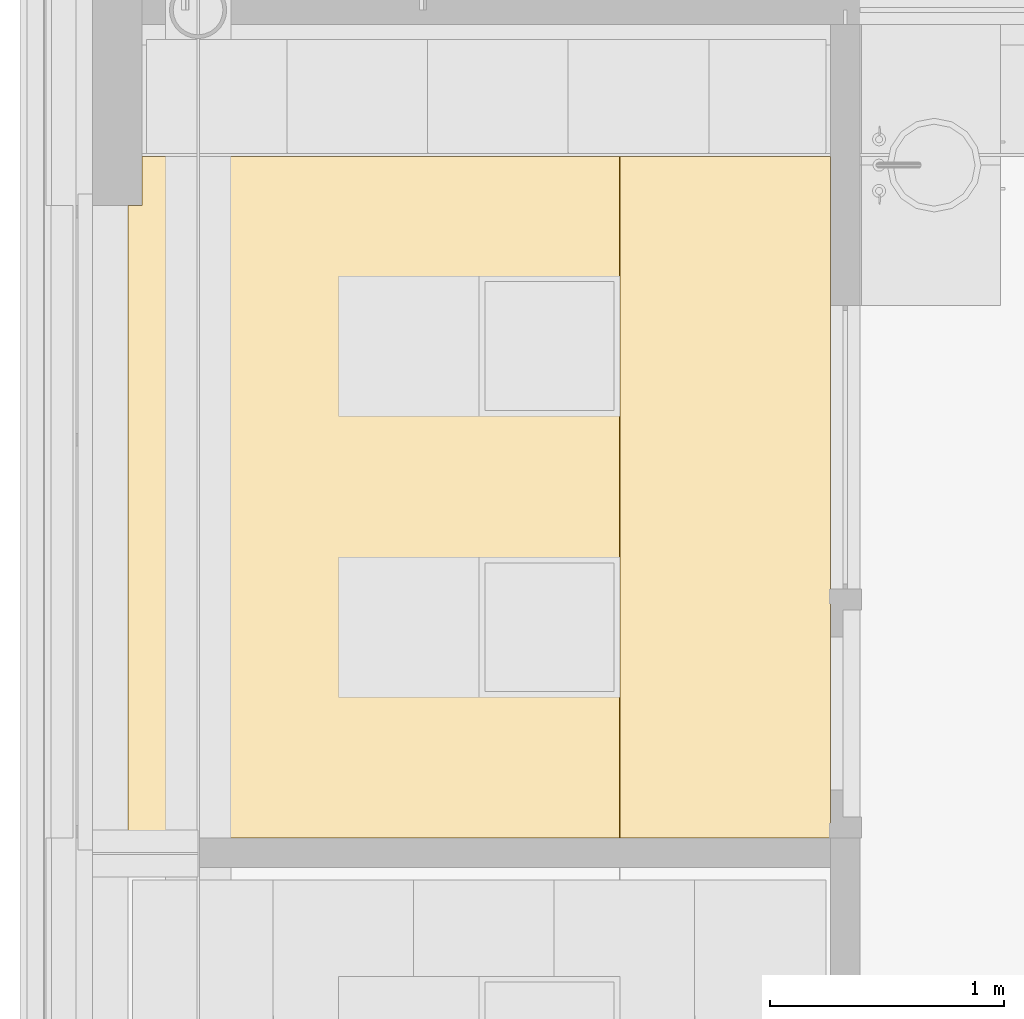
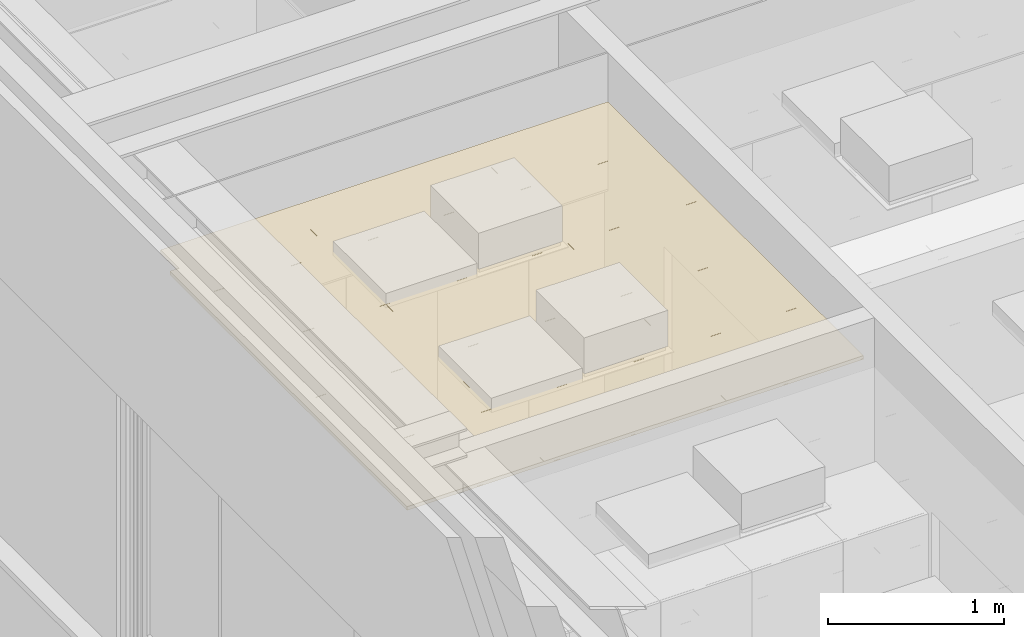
# One storey, part 157 of 347: 1 covering.
"""IFC2X3 building model written with IfcOpenShell, lengths in millimetres."""

from ifc_helpers import new_model, entity, si_unit, converted_unit, derived_unit, money_unit, direction, frame, origin_with_axes, place, context, subcontext, project, spatial, faceted_brep, type_object, element, save


model = new_model("IFC2X3")

# Units and contexts
model_context = context("Model", 3, precision=0.01, world=origin_with_axes(), true_north=direction((0.0, 1.0)))
plan_context = context("Plan", 3, precision=0.01, world=origin_with_axes(), true_north=direction((0.0, 1.0)))
body_context = subcontext(model_context, "Body", "Model", "MODEL_VIEW")
ifc_project = project(units=[si_unit("LENGTHUNIT", "METRE", prefix="MILLI"), si_unit("AREAUNIT", "SQUARE_METRE"), si_unit("VOLUMEUNIT", "CUBIC_METRE"), converted_unit("PLANEANGLEUNIT", "DEGREE", entity("IfcPlaneAngleMeasure", 0.0174532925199), si_unit("PLANEANGLEUNIT", "RADIAN"), dimensions=[0, 0, 0, 0, 0, 0, 0]), money_unit("EUR"), converted_unit("TIMEUNIT", "Year", entity("IfcTimeMeasure", 31556926.0), si_unit("TIMEUNIT", "SECOND"), dimensions=[0, 0, 1, 0, 0, 0, 0]), si_unit("MASSUNIT", "GRAM", prefix="KILO"), si_unit("THERMODYNAMICTEMPERATUREUNIT", "DEGREE_CELSIUS"), si_unit("LUMINOUSINTENSITYUNIT", "LUMEN"), si_unit("ENERGYUNIT", "JOULE", prefix="MEGA"), derived_unit("THERMALCONDUCTANCEUNIT", [(si_unit("POWERUNIT", "WATT"), 1), (si_unit("LENGTHUNIT", "METRE"), -1), (si_unit("THERMODYNAMICTEMPERATUREUNIT", "KELVIN"), -1)]), derived_unit("SPECIFICHEATCAPACITYUNIT", [(si_unit("ENERGYUNIT", "JOULE"), 1), (si_unit("MASSUNIT", "GRAM", prefix="KILO"), -1), (si_unit("THERMODYNAMICTEMPERATUREUNIT", "KELVIN"), -1)]), derived_unit("MASSDENSITYUNIT", [(si_unit("MASSUNIT", "GRAM", prefix="KILO"), 1), (si_unit("VOLUMEUNIT", "CUBIC_METRE"), -1)])], contexts=[model_context, plan_context])

# Site, building, storey
site_placement = place(None, origin_with_axes())
site = spatial("IfcSite", under=ifc_project, at=site_placement, Name="Site", CompositionType="ELEMENT")
building_placement = place(site_placement, origin_with_axes())
building = spatial("IfcBuilding", under=site, at=building_placement, Name="Naam gebouw", CompositionType="ELEMENT")
storey_placement = place(building_placement, origin_with_axes())
storey = spatial("IfcBuildingStorey", under=building, at=storey_placement, Name="begane grond", CompositionType="ELEMENT", Elevation=0.0)

# Covering
covering_type = type_object("IfcCoveringType", Name="Ceiling Editor INT_v2.01", PredefinedType="CEILING")
covering_placement = place(storey_placement, frame((5000.0, 8590.0, 3200.0), z_axis=(0.0, 0.0, 1.0), x_axis=(1.0, 0.0, 0.0)))
element("IfcCovering", 1, at=covering_placement, inside=storey, type_object=covering_type, Name="45 Plafondafwerkingen_77 garderobe", PredefinedType="CEILING", context=body_context, shape_type="Brep", body=[
    faceted_brep([(0.0, 599.9, 0.0), (0.0, 599.9, 20.0), (899.9, 599.9, 20.0), (899.9, 599.9, 0.0), (0.0, 0.1, 0.0), (0.0, 0.1, 20.0), (899.9, 0.1, 20.0), (899.9, 0.1, 0.0)], [[[0, 1, 2, 3]], [[1, 0, 4, 5]], [[1, 5, 6, 2]], [[6, 7, 3, 2]], [[4, 0, 3, 7]], [[5, 4, 7, 6]]]),
    faceted_brep([(-2.79896736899e-05, 1199.9, 0.0), (-2.79896736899e-05, 1199.9, 20.0), (899.9, 1199.9, 20.0), (899.9, 1199.9, 0.0), (0.0, 727.499993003, 0.0), (0.0, 727.499993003, 20.0), (0.0, 600.1, 20.0), (899.9, 600.1, 20.0), (899.9, 600.1, 0.0), (0.0, 600.1, 0.0)], [[[0, 1, 2, 3]], [[1, 0, 4, 5]], [[5, 6, 7, 2, 1]], [[7, 8, 3, 2]], [[4, 0, 3, 8, 9]], [[6, 5, 4, 9]], [[6, 9, 8, 7]]]),
    faceted_brep([(-2.79896736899e-05, 1799.9, 0.0), (-2.79896736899e-05, 1799.9, 20.0), (899.9, 1799.9, 20.0), (899.9, 1799.9, 0.0), (-2.79896736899e-05, 1200.1, 0.0), (-2.79896736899e-05, 1200.1, 20.0), (899.9, 1200.1, 20.0), (899.9, 1200.1, 0.0)], [[[0, 1, 2, 3]], [[1, 0, 4, 5]], [[1, 5, 6, 2]], [[6, 7, 3, 2]], [[4, 0, 3, 7]], [[5, 4, 7, 6]]]),
    faceted_brep([(-2.79896736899e-05, 2399.9, 0.0), (-2.79896736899e-05, 2399.9, 20.0), (899.9, 2399.9, 20.0), (899.9, 2399.9, 0.0), (-2.79896736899e-05, 1800.1, 0.0), (-2.79896736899e-05, 1800.1, 20.0), (899.9, 1800.1, 20.0), (899.9, 1800.1, 0.0)], [[[0, 1, 2, 3]], [[1, 0, 4, 5]], [[1, 5, 6, 2]], [[6, 7, 3, 2]], [[4, 0, 3, 7]], [[5, 4, 7, 6]]]),
    faceted_brep([(899.9, 2909.99997201, 0.0), (899.9, 2909.99997201, 20.0), (899.9, 2400.1, 20.0), (899.9, 2400.1, 0.0), (750.0, 2909.99997201, 0.0), (750.0, 2909.99997201, 20.0), (-2.79896736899e-05, 2699.99728633, 20.0), (-2.79896736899e-05, 2400.1, 20.0), (59.9999999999, 2909.99997201, 20.0), (59.9999999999, 2699.99728633, 20.0), (-2.79896736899e-05, 2400.1, 0.0), (-2.79896736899e-05, 2699.99728633, 0.0), (59.9999999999, 2699.99728633, 0.0), (59.9999999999, 2909.99997201, 0.0)], [[[0, 1, 2, 3]], [[1, 0, 4, 5]], [[6, 7, 2, 1, 5, 8, 9]], [[7, 10, 3, 2]], [[4, 0, 3, 10, 11, 12, 13]], [[8, 5, 4, 13]], [[7, 6, 11, 10]], [[9, 8, 13, 12]], [[6, 9, 12, 11]]]),
    faceted_brep([(2099.9, 0.1, 20.0), (2099.9, 0.1, 0.0), (2099.9, 599.9, 0.0), (2099.9, 599.9, 20.0), (900.1, 0.1, 20.0), (900.1, 0.1, 0.0), (900.1, 599.9, 0.0), (900.1, 599.9, 20.0)], [[[0, 1, 2, 3]], [[4, 5, 1, 0]], [[2, 1, 5, 6]], [[3, 2, 6, 7]], [[4, 0, 3, 7]], [[7, 6, 5, 4]]]),
    faceted_brep([(2099.9, 600.1, 20.0), (2099.9, 600.1, 0.0), (2099.9, 1199.9, 0.0), (2099.9, 1199.9, 20.0), (900.1, 600.1, 20.0), (900.1, 600.1, 0.0), (900.1, 1199.9, 0.0), (900.1, 1199.9, 20.0)], [[[0, 1, 2, 3]], [[4, 5, 1, 0]], [[2, 1, 5, 6]], [[3, 2, 6, 7]], [[4, 0, 3, 7]], [[7, 6, 5, 4]]]),
    faceted_brep([(2099.9, 1200.1, 20.0), (2099.9, 1200.1, 0.0), (2099.9, 1799.9, 0.0), (2099.9, 1799.9, 20.0), (900.1, 1200.1, 20.0), (900.1, 1200.1, 0.0), (900.1, 1799.9, 0.0), (900.1, 1799.9, 20.0)], [[[0, 1, 2, 3]], [[4, 5, 1, 0]], [[2, 1, 5, 6]], [[3, 2, 6, 7]], [[4, 0, 3, 7]], [[7, 6, 5, 4]]]),
    faceted_brep([(2099.9, 1800.1, 20.0), (2099.9, 1800.1, 0.0), (2099.9, 2399.9, 0.0), (2099.9, 2399.9, 20.0), (900.1, 1800.1, 20.0), (900.1, 1800.1, 0.0), (900.1, 2399.9, 0.0), (900.1, 2399.9, 20.0)], [[[0, 1, 2, 3]], [[4, 5, 1, 0]], [[2, 1, 5, 6]], [[3, 2, 6, 7]], [[4, 0, 3, 7]], [[7, 6, 5, 4]]]),
    faceted_brep([(2099.9, 2909.99997201, 0.0), (2099.9, 2909.99997201, 20.0), (2099.9, 2400.1, 20.0), (2099.9, 2400.1, 0.0), (1500.0, 2909.99997201, 0.0), (1500.0, 2909.99997201, 20.0), (900.1, 2909.99997201, 20.0), (900.1, 2400.1, 20.0), (900.1, 2400.1, 0.0), (900.1, 2909.99997201, 0.0)], [[[0, 1, 2, 3]], [[1, 0, 4, 5]], [[5, 6, 7, 2, 1]], [[7, 8, 3, 2]], [[4, 0, 3, 8, 9]], [[6, 5, 4, 9]], [[6, 9, 8, 7]]]),
    faceted_brep([(3000.0, 0.1, 20.0), (3000.0, 599.9, 20.0), (2100.1, 599.9, 20.0), (2100.1, 0.1, 20.0), (3000.0, 0.1, 0.0), (3000.0, 599.9, 0.0), (2100.1, 599.9, 0.0), (2100.1, 0.1, 0.0)], [[[0, 1, 2, 3]], [[1, 0, 4, 5]], [[1, 5, 6, 2]], [[2, 6, 7, 3]], [[4, 0, 3, 7]], [[5, 4, 7, 6]]]),
    faceted_brep([(3000.0, 727.499993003, 20.0), (3000.0, 1199.9, 20.0), (2100.1, 1199.9, 20.0), (2100.1, 600.1, 20.0), (3000.0, 600.1, 20.0), (3000.0, 727.499993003, 0.0), (3000.0, 1199.9, 0.0), (2100.1, 1199.9, 0.0), (2100.1, 600.1, 0.0), (3000.0, 600.1, 0.0)], [[[0, 1, 2, 3, 4]], [[1, 0, 5, 6]], [[1, 6, 7, 2]], [[2, 7, 8, 3]], [[9, 4, 3, 8]], [[0, 4, 9, 5]], [[5, 9, 8, 7, 6]]]),
    faceted_brep([(3000.0, 1454.99998601, 20.0), (3000.0, 1799.9, 20.0), (2100.1, 1799.9, 20.0), (2100.1, 1200.1, 20.0), (3000.0, 1200.1, 20.0), (3000.0, 1454.99998601, 0.0), (3000.0, 1799.9, 0.0), (2100.1, 1799.9, 0.0), (2100.1, 1200.1, 0.0), (3000.0, 1200.1, 0.0)], [[[0, 1, 2, 3, 4]], [[1, 0, 5, 6]], [[1, 6, 7, 2]], [[2, 7, 8, 3]], [[9, 4, 3, 8]], [[0, 4, 9, 5]], [[5, 9, 8, 7, 6]]]),
    faceted_brep([(3000.0, 2182.49997901, 20.0), (3000.0, 2399.9, 20.0), (2100.1, 2399.9, 20.0), (2100.1, 1800.1, 20.0), (3000.0, 1800.1, 20.0), (3000.0, 2182.49997901, 0.0), (3000.0, 2399.9, 0.0), (2100.1, 2399.9, 0.0), (2100.1, 1800.1, 0.0), (3000.0, 1800.1, 0.0)], [[[0, 1, 2, 3, 4]], [[1, 0, 5, 6]], [[1, 6, 7, 2]], [[2, 7, 8, 3]], [[9, 4, 3, 8]], [[0, 4, 9, 5]], [[5, 9, 8, 7, 6]]]),
    faceted_brep([(3000.0, 2400.1, 20.0), (3000.0, 2909.99997201, 20.0), (2250.0, 2909.99997201, 20.0), (2100.1, 2909.99997201, 20.0), (2100.1, 2400.1, 20.0), (3000.0, 2400.1, 0.0), (3000.0, 2909.99997201, 0.0), (2250.0, 2909.99997201, 0.0), (2100.1, 2909.99997201, 0.0), (2100.1, 2400.1, 0.0)], [[[0, 1, 2, 3, 4]], [[1, 0, 5, 6]], [[2, 1, 6, 7]], [[3, 2, 7, 8]], [[3, 8, 9, 4]], [[5, 0, 4, 9]], [[6, 5, 9, 8, 7]]]),
    faceted_brep([(887.5, 25.0, -5.0), (887.5, 25.0, 0.0), (887.5, 587.5, 0.0), (887.5, 587.5, -5.0), (25.0, 25.0, -5.0), (25.0, 25.0, 0.0), (3000.0, 1187.5, 0.0), (3000.0, 1212.5, 0.0), (3000.0, 1787.5, 0.0), (3000.0, 1812.5, 0.0), (3000.0, 2387.5, 0.0), (3000.0, 2412.5, 0.0), (3000.0, 2909.99997201, 0.0), (2112.5, 2909.99997201, 0.0), (2087.5, 2909.99997201, 0.0), (912.5, 2909.99997201, 0.0), (887.5, 2909.99997201, 0.0), (59.9999999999, 2909.99997201, 0.0), (59.9999999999, 2699.99728633, 0.0), (-2.79896736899e-05, 2699.99728633, 0.0), (-2.39100963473e-05, 2412.5, 0.0), (-2.35553472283e-05, 2387.5, 0.0), (-1.53961154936e-05, 1812.5, 0.0), (-1.50413663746e-05, 1787.5, 0.0), (-6.88213463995e-06, 1212.5, 0.0), (-6.52738552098e-06, 1187.5, 0.0), (0.0, 612.5, 0.0), (0.0, 587.5, 0.0), (0.0, 12.5, 0.0), (0.0, 0.0, 0.0), (750.0, 0.0, 0.0), (1500.0, 0.0, 0.0), (2250.0, 0.0, 0.0), (3000.0, 0.0, 0.0), (3000.0, 12.5, 0.0), (3000.0, 587.5, 0.0), (3000.0, 612.5, 0.0), (912.5, 25.0, 0.0), (912.5, 587.5, 0.0), (2087.5, 587.5, 0.0), (2087.5, 25.0, 0.0), (912.5, 1187.5, 0.0), (2087.5, 1187.5, 0.0), (2087.5, 612.5, 0.0), (912.5, 612.5, 0.0), (912.5, 1787.5, 0.0), (2087.5, 1787.5, 0.0), (2087.5, 1212.5, 0.0), (912.5, 1212.5, 0.0), (912.5, 2387.5, 0.0), (2087.5, 2387.5, 0.0), (2087.5, 1812.5, 0.0), (912.5, 1812.5, 0.0), (25.0, 587.5, 0.0), (24.9999934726, 1187.5, 0.0), (887.5, 1187.5, 0.0), (887.5, 612.5, 0.0), (25.0, 612.5, 0.0), (24.9999849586, 1787.5, 0.0), (887.5, 1787.5, 0.0), (887.5, 1212.5, 0.0), (24.9999931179, 1212.5, 0.0), (24.9999764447, 2387.5, 0.0), (887.5, 2387.5, 0.0), (887.5, 1812.5, 0.0), (24.9999846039, 1812.5, 0.0), (887.5, 2884.99997201, 0.0), (887.5, 2412.5, 0.0), (24.9999760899, 2412.5, 0.0), (24.9999723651, 2674.99728633, 0.0), (84.9999999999, 2674.99728633, 0.0), (84.9999999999, 2884.99997201, 0.0), (2087.5, 2884.99997201, 0.0), (2087.5, 2412.5, 0.0), (912.5, 2412.5, 0.0), (912.5, 2884.99997201, 0.0), (2975.0, 2884.99997201, 0.0), (2975.0, 2412.5, 0.0), (2112.5, 2412.5, 0.0), (2112.5, 2884.99997201, 0.0), (2975.0, 1812.5, 0.0), (2112.5, 1812.5, 0.0), (2112.5, 2387.5, 0.0), (2975.0, 2387.5, 0.0), (2975.0, 1212.5, 0.0), (2112.5, 1212.5, 0.0), (2112.5, 1787.5, 0.0), (2975.0, 1787.5, 0.0), (2112.5, 25.0, 0.0), (2112.5, 587.5, 0.0), (2975.0, 587.5, 0.0), (2975.0, 25.0, 0.0), (2975.0, 612.5, 0.0), (2112.5, 612.5, 0.0), (2112.5, 1187.5, 0.0), (2975.0, 1187.5, 0.0), (25.0, 587.5, -5.0), (3000.0, 612.5, -5.0), (3000.0, 587.5, -5.0), (3000.0, 12.5, -5.0), (3000.0, 0.0, -5.0), (2250.0, 0.0, -5.0), (1500.0, 0.0, -5.0), (750.0, 0.0, -5.0), (0.0, 0.0, -5.0), (0.0, 12.5, -5.0), (0.0, 587.5, -5.0), (0.0, 612.5, -5.0), (-6.52738552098e-06, 1187.5, -5.0), (-6.88213463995e-06, 1212.5, -5.0), (-1.50413663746e-05, 1787.5, -5.0), (-1.53961154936e-05, 1812.5, -5.0), (-2.35553472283e-05, 2387.5, -5.0), (-2.39100963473e-05, 2412.5, -5.0), (-2.79896736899e-05, 2699.99728633, -5.0), (59.9999999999, 2699.99728633, -5.0), (59.9999999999, 2909.99997201, -5.0), (887.5, 2909.99997201, -5.0), (912.5, 2909.99997201, -5.0), (2087.5, 2909.99997201, -5.0), (2112.5, 2909.99997201, -5.0), (3000.0, 2909.99997201, -5.0), (3000.0, 2412.5, -5.0), (3000.0, 2387.5, -5.0), (3000.0, 1812.5, -5.0), (3000.0, 1787.5, -5.0), (3000.0, 1212.5, -5.0), (3000.0, 1187.5, -5.0), (2087.5, 25.0, -5.0), (2087.5, 587.5, -5.0), (912.5, 587.5, -5.0), (912.5, 25.0, -5.0), (2087.5, 612.5, -5.0), (2087.5, 1187.5, -5.0), (912.5, 1187.5, -5.0), (912.5, 612.5, -5.0), (2087.5, 1212.5, -5.0), (2087.5, 1787.5, -5.0), (912.5, 1787.5, -5.0), (912.5, 1212.5, -5.0), (2087.5, 1812.5, -5.0), (2087.5, 2387.5, -5.0), (912.5, 2387.5, -5.0), (912.5, 1812.5, -5.0), (24.9999934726, 1187.5, -5.0), (25.0, 612.5, -5.0), (887.5, 612.5, -5.0), (887.5, 1187.5, -5.0), (24.9999849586, 1787.5, -5.0), (24.9999931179, 1212.5, -5.0), (887.5, 1212.5, -5.0), (887.5, 1787.5, -5.0), (24.9999764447, 2387.5, -5.0), (24.9999846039, 1812.5, -5.0), (887.5, 1812.5, -5.0), (887.5, 2387.5, -5.0), (887.5, 2884.99997201, -5.0), (84.9999999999, 2884.99997201, -5.0), (84.9999999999, 2674.99728633, -5.0), (24.9999723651, 2674.99728633, -5.0), (24.9999760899, 2412.5, -5.0), (887.5, 2412.5, -5.0), (2087.5, 2884.99997201, -5.0), (912.5, 2884.99997201, -5.0), (912.5, 2412.5, -5.0), (2087.5, 2412.5, -5.0), (2975.0, 2884.99997201, -5.0), (2112.5, 2884.99997201, -5.0), (2112.5, 2412.5, -5.0), (2975.0, 2412.5, -5.0), (2975.0, 2387.5, -5.0), (2112.5, 2387.5, -5.0), (2112.5, 1812.5, -5.0), (2975.0, 1812.5, -5.0), (2975.0, 1787.5, -5.0), (2112.5, 1787.5, -5.0), (2112.5, 1212.5, -5.0), (2975.0, 1212.5, -5.0), (2975.0, 25.0, -5.0), (2975.0, 587.5, -5.0), (2112.5, 587.5, -5.0), (2112.5, 25.0, -5.0), (2975.0, 1187.5, -5.0), (2112.5, 1187.5, -5.0), (2112.5, 612.5, -5.0), (2975.0, 612.5, -5.0)], [[[0, 1, 2, 3]], [[1, 0, 4, 5]], [[6, 7, 8, 9, 10, 11, 12, 13, 14, 15, 16, 17, 18, 19, 20, 21, 22, 23, 24, 25, 26, 27, 28, 29, 30, 31, 32, 33, 34, 35, 36], [37, 38, 39, 40], [41, 42, 43, 44], [45, 46, 47, 48], [49, 50, 51, 52], [1, 5, 53, 2], [54, 55, 56, 57], [58, 59, 60, 61], [62, 63, 64, 65], [66, 67, 68, 69, 70, 71], [72, 73, 74, 75], [76, 77, 78, 79], [80, 81, 82, 83], [84, 85, 86, 87], [88, 89, 90, 91], [92, 93, 94, 95]], [[53, 96, 3, 2]], [[97, 98, 99, 100, 101, 102, 103, 104, 105, 106, 107, 108, 109, 110, 111, 112, 113, 114, 115, 116, 117, 118, 119, 120, 121, 122, 123, 124, 125, 126, 127], [128, 129, 130, 131], [132, 133, 134, 135], [136, 137, 138, 139], [140, 141, 142, 143], [0, 3, 96, 4], [144, 145, 146, 147], [148, 149, 150, 151], [152, 153, 154, 155], [156, 157, 158, 159, 160, 161], [162, 163, 164, 165], [166, 167, 168, 169], [170, 171, 172, 173], [174, 175, 176, 177], [178, 179, 180, 181], [182, 183, 184, 185]], [[96, 53, 5, 4]], [[97, 127, 126, 125, 124, 123, 122, 121, 12, 11, 10, 9, 8, 7, 6, 36, 35, 34, 33, 100, 99, 98]], [[12, 121, 120, 119, 118, 117, 116, 17, 16, 15, 14, 13]], [[17, 116, 115, 18]], [[18, 115, 114, 19]], [[19, 114, 113, 112, 111, 110, 109, 108, 107, 106, 105, 104, 29, 28, 27, 26, 25, 24, 23, 22, 21, 20]], [[104, 103, 30, 29]], [[102, 31, 30, 103]], [[101, 32, 31, 102]], [[101, 100, 33, 32]], [[37, 131, 130, 38]], [[130, 129, 39, 38]], [[128, 40, 39, 129]], [[37, 40, 128, 131]], [[134, 133, 42, 41]], [[43, 42, 133, 132]], [[44, 43, 132, 135]], [[135, 134, 41, 44]], [[138, 137, 46, 45]], [[47, 46, 137, 136]], [[48, 47, 136, 139]], [[139, 138, 45, 48]], [[142, 141, 50, 49]], [[51, 50, 141, 140]], [[52, 51, 140, 143]], [[143, 142, 49, 52]], [[54, 144, 147, 55]], [[56, 55, 147, 146]], [[145, 57, 56, 146]], [[144, 54, 57, 145]], [[58, 148, 151, 59]], [[60, 59, 151, 150]], [[149, 61, 60, 150]], [[148, 58, 61, 149]], [[62, 152, 155, 63]], [[64, 63, 155, 154]], [[153, 65, 64, 154]], [[152, 62, 65, 153]], [[66, 156, 161, 67]], [[160, 68, 67, 161]], [[159, 69, 68, 160]], [[158, 70, 69, 159]], [[157, 71, 70, 158]], [[156, 66, 71, 157]], [[72, 162, 165, 73]], [[74, 73, 165, 164]], [[163, 75, 74, 164]], [[162, 72, 75, 163]], [[76, 166, 169, 77]], [[77, 169, 168, 78]], [[167, 79, 78, 168]], [[166, 76, 79, 167]], [[80, 173, 172, 81]], [[172, 171, 82, 81]], [[170, 83, 82, 171]], [[80, 83, 170, 173]], [[84, 177, 176, 85]], [[176, 175, 86, 85]], [[174, 87, 86, 175]], [[84, 87, 174, 177]], [[88, 181, 180, 89]], [[179, 90, 89, 180]], [[178, 91, 90, 179]], [[88, 91, 178, 181]], [[92, 185, 184, 93]], [[184, 183, 94, 93]], [[182, 95, 94, 183]], [[92, 95, 182, 185]]]),
])

save(model, "model.ifc")
